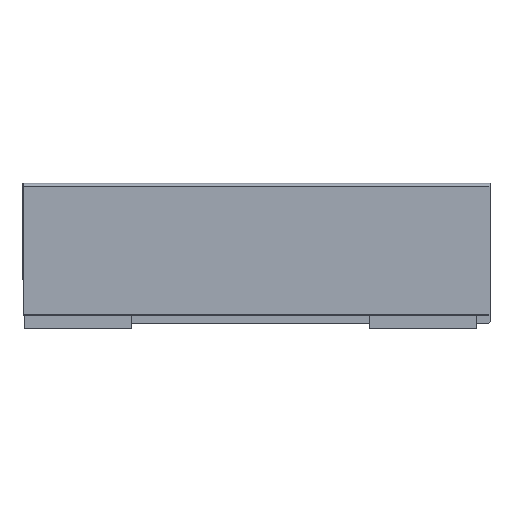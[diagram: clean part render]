
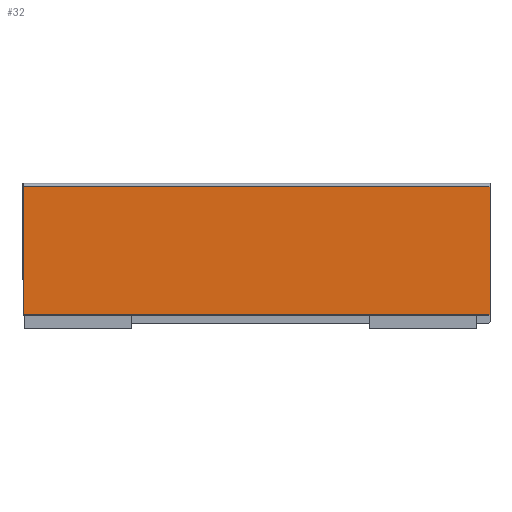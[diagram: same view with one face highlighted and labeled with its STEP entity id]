
A CAD part, left-side view. The second image highlights one B-rep face of the part: STEP entity #32.
In plain terms, the highlighted planar face has unit normal (-1, 0, 0).
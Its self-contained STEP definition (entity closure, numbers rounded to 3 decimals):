
#32 = ADVANCED_FACE ( 'NONE', ( #687 ), #3486, .F. ) ;
#553 = LINE ( 'NONE', #3540, #555 ) ;
#555 = VECTOR ( 'NONE', #3539, 1000. ) ;
#687 = FACE_OUTER_BOUND ( 'NONE', #1174, .T. ) ;
#1147 = ORIENTED_EDGE ( 'NONE', *, *, #2331, .F. ) ;
#1148 = ORIENTED_EDGE ( 'NONE', *, *, #2655, .F. ) ;
#1149 = ORIENTED_EDGE ( 'NONE', *, *, #2773, .T. ) ;
#1150 = ORIENTED_EDGE ( 'NONE', *, *, #2715, .T. ) ;
#1174 = EDGE_LOOP ( 'NONE', ( #1147, #1148, #1149, #1150 ) ) ;
#1409 = VECTOR ( 'NONE', #2090, 1000. ) ;
#1488 = VECTOR ( 'NONE', #2173, 1000. ) ;
#1492 = LINE ( 'NONE', #2172, #1488 ) ;
#1556 = LINE ( 'NONE', #2089, #1409 ) ;
#1636 = VECTOR ( 'NONE', #2837, 1000. ) ;
#1637 = LINE ( 'NONE', #2838, #1636 ) ;
#1804 = VERTEX_POINT ( 'NONE', #3771 ) ;
#1817 = VERTEX_POINT ( 'NONE', #3758 ) ;
#1837 = VERTEX_POINT ( 'NONE', #3738 ) ;
#1985 = VERTEX_POINT ( 'NONE', #3589 ) ;
#2089 = CARTESIAN_POINT ( 'NONE',  ( -4.1, 390., -28.503 ) ) ;
#2090 = DIRECTION ( 'NONE',  ( 0., -1., 0. ) ) ;
#2172 = CARTESIAN_POINT ( 'NONE',  ( -4.1, 390., 64.411 ) ) ;
#2173 = DIRECTION ( 'NONE',  ( 0., 0., -1. ) ) ;
#2331 = EDGE_CURVE ( 'NONE', #1804, #1817, #553, .T. ) ;
#2655 = EDGE_CURVE ( 'NONE', #1985, #1804, #1637, .T. ) ;
#2710 = AXIS2_PLACEMENT_3D ( 'NONE', #3489, #3479, #3475 ) ;
#2715 = EDGE_CURVE ( 'NONE', #1837, #1817, #1556, .T. ) ;
#2773 = EDGE_CURVE ( 'NONE', #1985, #1837, #1492, .T. ) ;
#2837 = DIRECTION ( 'NONE',  ( 0., -1., 0. ) ) ;
#2838 = CARTESIAN_POINT ( 'NONE',  ( -4.1, 390., 78.498 ) ) ;
#3475 = DIRECTION ( 'NONE',  ( 0., 0., -1. ) ) ;
#3479 = DIRECTION ( 'NONE',  ( 1., 0., 0. ) ) ;
#3486 = PLANE ( 'NONE',  #2710 ) ;
#3489 = CARTESIAN_POINT ( 'NONE',  ( -4.1, 390., -28.503 ) ) ;
#3539 = DIRECTION ( 'NONE',  ( 0., 0., -1. ) ) ;
#3540 = CARTESIAN_POINT ( 'NONE',  ( -4.1, 0., -28.503 ) ) ;
#3589 = CARTESIAN_POINT ( 'NONE',  ( -4.1, 390., 78.498 ) ) ;
#3738 = CARTESIAN_POINT ( 'NONE',  ( -4.1, 390., -28.503 ) ) ;
#3758 = CARTESIAN_POINT ( 'NONE',  ( -4.1, 0., -28.503 ) ) ;
#3771 = CARTESIAN_POINT ( 'NONE',  ( -4.1, 0., 78.498 ) ) ;
